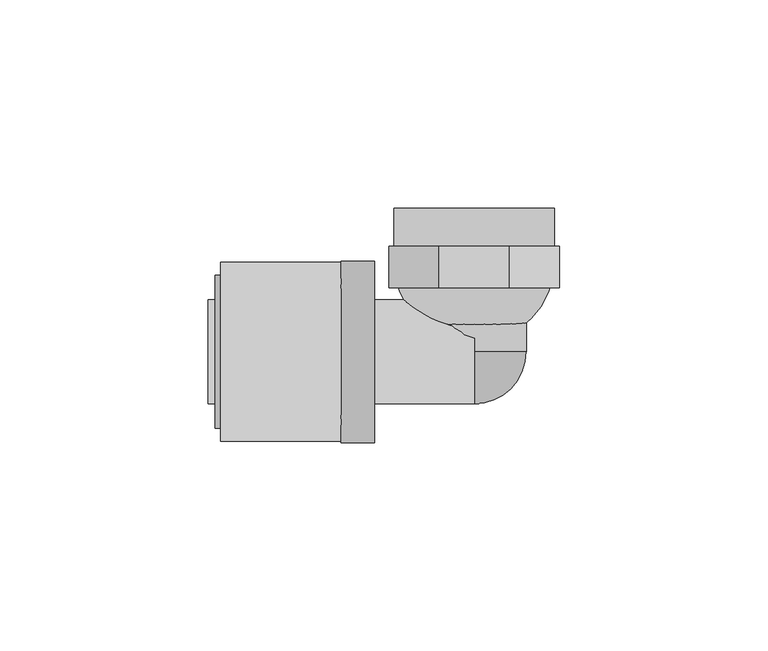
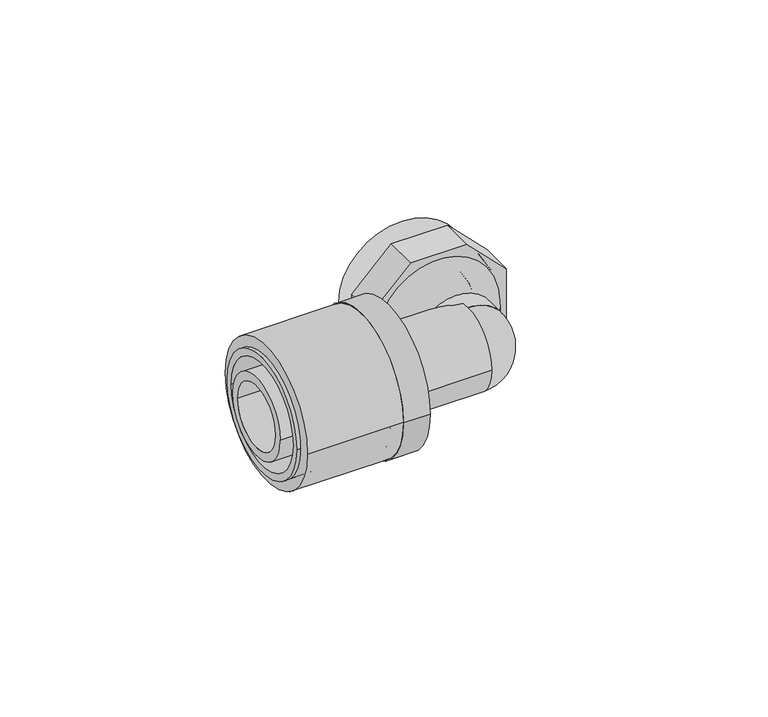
"""IFC4 building model written with IfcOpenShell, lengths in millimetres: pipe fitting geometry, FASTLOC_Elbow with female thread LX : FSL A internal CZ."""

from ifc_helpers import new_model, si_unit, point, frame, origin, origin_2d, place, context, project, spatial, polyline, circle_curve, ellipse_curve, trimmed, segment, composite_curve, outline, extrude, source, transform, mapped, element, save
from ifc_brep_helpers import plane_surface, cylinder_surface, revolved_surface, advanced_brep


def pipe_fitting_c3764643(model_context):
    return source(origin(), model_context, "Body", "SolidModel", [
        extrude(outline(composite_curve([segment(trimmed(circle_curve(origin_2d(), 21.5), [point((21.5, 0.0))], [point((-21.5, 0.0))], False, "CARTESIAN"), True, "CONTINUOUS"), segment(trimmed(circle_curve(origin_2d(), 21.5), [point((-21.5, 0.0))], [point((21.5, 0.0))], False, "CARTESIAN"), True, "CONTINUOUS")], self_intersect=False), holes=[composite_curve([segment(trimmed(circle_curve(origin_2d(), 16.85), [point((16.85, 0.0))], [point((-16.85, 0.0))], True, "CARTESIAN"), True, "CONTINUOUS"), segment(trimmed(circle_curve(origin_2d(), 16.85), [point((-16.85, 0.0))], [point((16.85, 0.0))], True, "CARTESIAN"), True, "CONTINUOUS")], self_intersect=False)]), frame((-61.0, 0.0, 0.0), z_axis=(1.0, 0.0, 0.0), x_axis=(0.0, 1.0, 0.0)), (0.0, 0.0, 1.0), 29.0),
        advanced_brep(
        [(-32.0, -21.8, 0.0), (-32.0, 21.8, 0.0), (-24.0, 21.8, 0.0), (-24.0, -21.8, 0.0), (-62.3, -18.35, 0.0), (-62.3, 18.35, 0.0), (-32.0, 18.35, 0.0), (-32.0, -18.35, 0.0), (-24.0, -16.2, 0.0), (-24.0, 16.2, 0.0), (-62.3, 16.2, 0.0), (-62.3, -16.2, 0.0)],
        [
            (0, 1, circle_curve(frame((-32.0, 0.0, 0.0), z_axis=(1.0, 0.0, 0.0), x_axis=(0.0, 1.0, 0.0)), 21.8)),
            (1, 2),
            (2, 3, circle_curve(frame((-24.0, 0.0, 0.0), z_axis=(-1.0, 0.0, 0.0), x_axis=(0.0, 1.0, 0.0)), 21.8)),
            (3, 0),
            (4, 5, circle_curve(frame((-62.3, 0.0, 0.0), z_axis=(1.0, 0.0, 0.0), x_axis=(0.0, 1.0, 0.0)), 18.35)),
            (5, 6),
            (6, 7, circle_curve(frame((-32.0, 0.0, 0.0), z_axis=(-1.0, 0.0, 0.0), x_axis=(0.0, 1.0, 0.0)), 18.35)),
            (7, 4),
            (8, 9, circle_curve(frame((-24.0, 0.0, 0.0), z_axis=(1.0, 0.0, 0.0), x_axis=(0.0, 1.0, 0.0)), 16.2)),
            (9, 10),
            (10, 11, circle_curve(frame((-62.3, 0.0, 0.0), z_axis=(-1.0, 0.0, 0.0), x_axis=(0.0, 1.0, 0.0)), 16.2)),
            (11, 8),
            (1, 0, circle_curve(frame((-32.0, 0.0, 0.0), z_axis=(1.0, 0.0, 0.0), x_axis=(0.0, -1.0, 0.0)), 21.8)),
            (3, 2, circle_curve(frame((-24.0, 0.0, 0.0), z_axis=(-1.0, 0.0, 0.0), x_axis=(0.0, -1.0, 0.0)), 21.8)),
            (6, 7, circle_curve(frame((-32.0, 0.0, 0.0), z_axis=(1.0, 0.0, 0.0), x_axis=(0.0, -1.0, 0.0)), 18.35)),
            (5, 4, circle_curve(frame((-62.3, 0.0, 0.0), z_axis=(1.0, 0.0, 0.0), x_axis=(0.0, -1.0, 0.0)), 18.35)),
            (10, 11, circle_curve(frame((-62.3, 0.0, 0.0), z_axis=(1.0, 0.0, 0.0), x_axis=(0.0, -1.0, 0.0)), 16.2)),
            (9, 8, circle_curve(frame((-24.0, 0.0, 0.0), z_axis=(1.0, 0.0, 0.0), x_axis=(0.0, -1.0, 0.0)), 16.2)),
        ],
        [
            cylinder_surface(frame((-24.0, 0.0, 0.0), z_axis=(-1.0, 0.0, 0.0), x_axis=(0.0, 1.0, 0.0)), 21.8),
            cylinder_surface(frame((-24.0, 0.0, 0.0), z_axis=(-1.0, 0.0, 0.0), x_axis=(0.0, 1.0, 0.0)), 18.35),
            revolved_surface(polyline([(-62.3, 16.2, 0.0), (-24.0, 16.2, 0.0)]), (-24.0, 0.0, 0.0), (-1.0, 0.0, 0.0)),
            cylinder_surface(frame((-24.0, 0.0, 0.0), z_axis=(-1.0, 0.0, 0.0), x_axis=(0.0, -1.0, 0.0)), 21.8),
            plane_surface(frame((-32.0, 0.0, 0.0), z_axis=(-1.0, 0.0, 0.0), x_axis=(0.0, -1.0, 0.0))),
            cylinder_surface(frame((-24.0, 0.0, 0.0), z_axis=(-1.0, 0.0, 0.0), x_axis=(0.0, -1.0, 0.0)), 18.35),
            plane_surface(frame((-62.3, 0.0, 0.0), z_axis=(-1.0, 0.0, 0.0), x_axis=(0.0, -1.0, 0.0))),
            revolved_surface(polyline([(-62.3, -16.2, 0.0), (-24.0, -16.2, 0.0)]), (-24.0, 0.0, 0.0), (-1.0, 0.0, 0.0)),
            plane_surface(frame((-24.0, 0.0, 0.0), z_axis=(1.0, 0.0, 0.0), x_axis=(0.0, -1.0, 0.0))),
        ],
        [
            (0, [[1, 2, 3, 4]]),
            (1, [[5, 6, 7, 8]]),
            (2, [[9, 10, 11, 12]]),
            (3, [[13, -4, 14, -2]]),
            (4, [[-13, -1], [15, -7]]),
            (5, [[16, -8, -15, -6]]),
            (6, [[-16, -5], [17, -11]]),
            (7, [[18, -12, -17, -10]]),
            (8, [[-14, -3], [-18, -9]]),
        ],
    ),
        advanced_brep(
        [(0.5, 2.2564946, 0.0), (-0.5, 2.2564946, 0.0), (-19.25, 21.5, 0.0), (19.25, 21.5, 0.0), (0.5, 9.010004, 0.0), (-0.5, 9.010004, 0.0), (12.5, 21.5, 0.0), (-12.5, 21.5, 0.0), (12.5, 34.5, 0.0), (-12.5, 34.5, 0.0), (-19.25, 34.5, 0.0), (19.25, 34.5, 0.0)],
        [
            (0, 1, circle_curve(frame((0.0, 2.2564946, 0.0), z_axis=(0.0, 1.0, 0.0), x_axis=(-1.0, 0.0, 0.0)), 0.5)),
            (1, 2, circle_curve(frame((0.0, 21.5, 0.0), z_axis=(0.0, 0.0, -1.0), x_axis=(0.0, 1.0, 0.0)), 19.25)),
            (2, 3, circle_curve(frame((0.0, 21.5, 0.0), z_axis=(0.0, -1.0, 0.0), x_axis=(-1.0, 0.0, 0.0)), 19.25)),
            (3, 0, circle_curve(frame((0.0, 21.5, 0.0), z_axis=(0.0, 0.0, -1.0), x_axis=(0.0, 1.0, 0.0)), 19.25)),
            (4, 5, circle_curve(frame((0.0, 9.010004, 0.0), z_axis=(0.0, 1.0, 0.0), x_axis=(-1.0, 0.0, 0.0)), 0.5)),
            (5, 1),
            (0, 4),
            (6, 7, circle_curve(frame((0.0, 21.5, 0.0), z_axis=(0.0, 1.0, 0.0), x_axis=(-1.0, 0.0, 0.0)), 12.5)),
            (7, 5, circle_curve(frame((0.0, 21.5, 0.0), z_axis=(0.0, 0.0, 1.0), x_axis=(0.0, 1.0, 0.0)), 12.5)),
            (4, 6, circle_curve(frame((0.0, 21.5, 0.0), z_axis=(0.0, 0.0, 1.0), x_axis=(0.0, 1.0, 0.0)), 12.5)),
            (8, 9, circle_curve(frame((0.0, 34.5, 0.0), z_axis=(0.0, 1.0, 0.0), x_axis=(-1.0, 0.0, 0.0)), 12.5)),
            (9, 7),
            (6, 8),
            (2, 10),
            (10, 11, circle_curve(frame((0.0, 34.5, 0.0), z_axis=(0.0, -1.0, 0.0), x_axis=(-1.0, 0.0, 0.0)), 19.25)),
            (11, 3),
            (1, 0, circle_curve(frame((0.0, 2.2564946, 0.0), z_axis=(0.0, 1.0, 0.0), x_axis=(1.0, 0.0, 0.0)), 0.5)),
            (3, 2, circle_curve(frame((0.0, 21.5, 0.0), z_axis=(0.0, -1.0, 0.0), x_axis=(1.0, 0.0, 0.0)), 19.25)),
            (5, 4, circle_curve(frame((0.0, 9.010004, 0.0), z_axis=(0.0, 1.0, 0.0), x_axis=(1.0, 0.0, 0.0)), 0.5)),
            (7, 6, circle_curve(frame((0.0, 21.5, 0.0), z_axis=(0.0, 1.0, 0.0), x_axis=(1.0, 0.0, 0.0)), 12.5)),
            (9, 8, circle_curve(frame((0.0, 34.5, 0.0), z_axis=(0.0, 1.0, 0.0), x_axis=(1.0, 0.0, 0.0)), 12.5)),
            (10, 11, circle_curve(frame((0.0, 34.5, 0.0), z_axis=(0.0, 1.0, 0.0), x_axis=(1.0, 0.0, 0.0)), 19.25)),
        ],
        [
            revolved_surface(trimmed(ellipse_curve(frame((0.0, 21.5, 0.0), z_axis=(0.0, 0.0, 1.0), x_axis=(0.0, 1.0, 0.0)), 19.25, 19.25), [point((-19.25, 21.5, 0.0))], [point((-0.5, 2.2564946, 0.0))], True, "CARTESIAN"), (0.0, 15.4, 0.0), (0.0, -1.0, 0.0)),
            revolved_surface(polyline([(-0.5, 2.2564946, 0.0), (-0.5, 9.010004, 0.0)]), (0.0, 15.4, 0.0), (0.0, -1.0, 0.0)),
            revolved_surface(trimmed(ellipse_curve(frame((0.0, 21.5, 0.0), z_axis=(0.0, 0.0, -1.0), x_axis=(0.0, 1.0, 0.0)), 12.5, 12.5), [point((-0.5, 9.010004, 0.0))], [point((-12.5, 21.5, 0.0))], True, "CARTESIAN"), (0.0, 15.4, 0.0), (0.0, -1.0, 0.0)),
            revolved_surface(polyline([(-12.5, 21.5, 0.0), (-12.5, 34.5, 0.0)]), (0.0, 15.4, 0.0), (0.0, -1.0, 0.0)),
            cylinder_surface(frame((0.0, 15.4, 0.0), z_axis=(0.0, -1.0, 0.0), x_axis=(-1.0, 0.0, 0.0)), 19.25),
            revolved_surface(trimmed(ellipse_curve(frame((0.0, 21.5, 0.0), z_axis=(0.0, 0.0, -1.0), x_axis=(0.0, 1.0, 0.0)), 19.25, 19.25), [point((19.25, 21.5, 0.0))], [point((0.5, 2.2564946, 0.0))], True, "CARTESIAN"), (0.0, 15.4, 0.0), (0.0, -1.0, 0.0)),
            revolved_surface(polyline([(0.5, 2.2564946, 0.0), (0.5, 9.010004, 0.0)]), (0.0, 15.4, 0.0), (0.0, -1.0, 0.0)),
            revolved_surface(trimmed(ellipse_curve(frame((0.0, 21.5, 0.0), z_axis=(0.0, 0.0, 1.0), x_axis=(0.0, 1.0, 0.0)), 12.5, 12.5), [point((0.5, 9.010004, 0.0))], [point((12.5, 21.5, 0.0))], True, "CARTESIAN"), (0.0, 15.4, 0.0), (0.0, -1.0, 0.0)),
            revolved_surface(polyline([(12.5, 21.5, 0.0), (12.5, 34.5, 0.0)]), (0.0, 15.4, 0.0), (0.0, -1.0, 0.0)),
            plane_surface(frame((0.0, 34.5, 0.0), z_axis=(0.0, 1.0, 0.0), x_axis=(1.0, 0.0, 0.0))),
            cylinder_surface(frame((0.0, 15.4, 0.0), z_axis=(0.0, -1.0, 0.0), x_axis=(1.0, 0.0, 0.0)), 19.25),
        ],
        [
            (0, [[1, 2, 3, 4]]),
            (1, [[5, 6, -1, 7]]),
            (2, [[8, 9, -5, 10]]),
            (3, [[11, 12, -8, 13]]),
            (4, [[-3, 14, 15, 16]]),
            (5, [[17, -4, 18, -2]]),
            (6, [[19, -7, -17, -6]]),
            (7, [[20, -10, -19, -9]]),
            (8, [[21, -13, -20, -12]]),
            (9, [[22, -15], [-21, -11]]),
            (10, [[-18, -16, -22, -14]]),
        ],
    ),
        advanced_brep(
        [(-32.0, 12.5, 0.0), (-32.0, -12.5, 0.0), (-64.0, -12.5, 0.0), (-64.0, 12.5, 0.0), (-29.0, 14.1, 0.0), (-29.0, -14.1, 0.0), (-32.0, -14.1, 0.0), (-32.0, 14.1, 0.0), (0.0, 12.5, 0.0), (0.0, -12.5, 0.0), (-29.0, -12.5, 0.0), (-29.0, 12.5, 0.0), (-64.0, 9.85, 0.0), (-64.0, -9.85, 0.0), (0.0, -9.85, 0.0), (0.0, 9.85, 0.0)],
        [
            (0, 1, circle_curve(frame((-32.0, 0.0, 0.0), z_axis=(-1.0, 0.0, 0.0), x_axis=(0.0, -1.0, 0.0)), 12.5)),
            (1, 2),
            (2, 3, circle_curve(frame((-64.0, 0.0, 0.0), z_axis=(1.0, 0.0, 0.0), x_axis=(0.0, -1.0, 0.0)), 12.5)),
            (3, 0),
            (4, 5, circle_curve(frame((-29.0, 0.0, 0.0), z_axis=(-1.0, 0.0, 0.0), x_axis=(0.0, -1.0, 0.0)), 14.1)),
            (5, 6),
            (6, 7, circle_curve(frame((-32.0, 0.0, 0.0), z_axis=(1.0, 0.0, 0.0), x_axis=(0.0, -1.0, 0.0)), 14.1)),
            (7, 4),
            (8, 9, circle_curve(frame((0.0, 0.0, 0.0), z_axis=(-1.0, 0.0, 0.0), x_axis=(0.0, -1.0, 0.0)), 12.5)),
            (9, 10),
            (10, 11, circle_curve(frame((-29.0, 0.0, 0.0), z_axis=(1.0, 0.0, 0.0), x_axis=(0.0, -1.0, 0.0)), 12.5)),
            (11, 8),
            (12, 13, circle_curve(frame((-64.0, 0.0, 0.0), z_axis=(-1.0, 0.0, 0.0), x_axis=(0.0, -1.0, 0.0)), 9.85)),
            (13, 14),
            (14, 15, circle_curve(frame((0.0, 0.0, 0.0), z_axis=(1.0, 0.0, 0.0), x_axis=(0.0, -1.0, 0.0)), 9.85)),
            (15, 12),
            (2, 3, circle_curve(frame((-64.0, 0.0, 0.0), z_axis=(-1.0, 0.0, 0.0), x_axis=(0.0, 1.0, 0.0)), 12.5)),
            (12, 13, circle_curve(frame((-64.0, 0.0, 0.0), z_axis=(1.0, 0.0, 0.0), x_axis=(0.0, 1.0, 0.0)), 9.85)),
            (1, 0, circle_curve(frame((-32.0, 0.0, 0.0), z_axis=(-1.0, 0.0, 0.0), x_axis=(0.0, 1.0, 0.0)), 12.5)),
            (6, 7, circle_curve(frame((-32.0, 0.0, 0.0), z_axis=(-1.0, 0.0, 0.0), x_axis=(0.0, 1.0, 0.0)), 14.1)),
            (5, 4, circle_curve(frame((-29.0, 0.0, 0.0), z_axis=(-1.0, 0.0, 0.0), x_axis=(0.0, 1.0, 0.0)), 14.1)),
            (10, 11, circle_curve(frame((-29.0, 0.0, 0.0), z_axis=(-1.0, 0.0, 0.0), x_axis=(0.0, 1.0, 0.0)), 12.5)),
            (9, 8, circle_curve(frame((0.0, 0.0, 0.0), z_axis=(-1.0, 0.0, 0.0), x_axis=(0.0, 1.0, 0.0)), 12.5)),
            (14, 15, circle_curve(frame((0.0, 0.0, 0.0), z_axis=(-1.0, 0.0, 0.0), x_axis=(0.0, 1.0, 0.0)), 9.85)),
        ],
        [
            cylinder_surface(frame((0.0, 0.0, 0.0), z_axis=(1.0, 0.0, 0.0), x_axis=(0.0, -1.0, 0.0)), 12.5),
            cylinder_surface(frame((0.0, 0.0, 0.0), z_axis=(1.0, 0.0, 0.0), x_axis=(0.0, -1.0, 0.0)), 14.1),
            revolved_surface(polyline([(0.0, -9.85, 0.0), (-64.0, -9.85, 0.0)]), (0.0, 0.0, 0.0), (1.0, 0.0, 0.0)),
            plane_surface(frame((-64.0, 0.0, 0.0), z_axis=(-1.0, 0.0, 0.0), x_axis=(0.0, 1.0, 0.0))),
            cylinder_surface(frame((0.0, 0.0, 0.0), z_axis=(1.0, 0.0, 0.0), x_axis=(0.0, 1.0, 0.0)), 12.5),
            plane_surface(frame((-32.0, 0.0, 0.0), z_axis=(-1.0, 0.0, 0.0), x_axis=(0.0, 1.0, 0.0))),
            cylinder_surface(frame((0.0, 0.0, 0.0), z_axis=(1.0, 0.0, 0.0), x_axis=(0.0, 1.0, 0.0)), 14.1),
            plane_surface(frame((-29.0, 0.0, 0.0), z_axis=(1.0, 0.0, 0.0), x_axis=(0.0, 1.0, 0.0))),
            plane_surface(frame((0.0, 0.0, 0.0), z_axis=(1.0, 0.0, 0.0), x_axis=(0.0, 1.0, 0.0))),
            revolved_surface(polyline([(0.0, 9.85, 0.0), (-64.0, 9.85, 0.0)]), (0.0, 0.0, 0.0), (1.0, 0.0, 0.0)),
        ],
        [
            (0, [[1, 2, 3, 4]]),
            (1, [[5, 6, 7, 8]]),
            (0, [[9, 10, 11, 12]]),
            (2, [[13, 14, 15, 16]]),
            (3, [[17, -3], [18, -13]]),
            (4, [[19, -4, -17, -2]]),
            (5, [[20, -7], [-19, -1]]),
            (6, [[21, -8, -20, -6]]),
            (7, [[-21, -5], [22, -11]]),
            (4, [[23, -12, -22, -10]]),
            (8, [[-23, -9], [24, -15]]),
            (9, [[-18, -16, -24, -14]]),
        ],
    ),
        advanced_brep(
        [(0.0, 0.0, 12.5), (0.0, 0.0, 6.25), (0.0, -6.25, 0.0), (0.0, -12.5, 0.0), (0.0, 0.0, -12.5), (0.0, 0.0, -6.25)],
        [
            (0, 1),
            (1, 2, circle_curve(frame((0.0, 0.0, 0.0), z_axis=(1.0, 0.0, 0.0), x_axis=(0.0, 0.0, 1.0)), 6.25)),
            (2, 3),
            (3, 0, circle_curve(frame((0.0, 0.0, 0.0), z_axis=(-1.0, 0.0, 0.0), x_axis=(0.0, 0.0, 1.0)), 12.5)),
            (4, 3, circle_curve(frame((0.0, 0.0, 0.0), z_axis=(-1.0, 0.0, 0.0), x_axis=(0.0, 0.0, -1.0)), 12.5)),
            (2, 5, circle_curve(frame((0.0, 0.0, 0.0), z_axis=(1.0, 0.0, 0.0), x_axis=(0.0, 0.0, -1.0)), 6.25)),
            (5, 4),
            (5, 1, circle_curve(frame((0.0, 0.0, 0.0), z_axis=(0.0, -1.0, 0.0), x_axis=(0.0, 0.0, 1.0)), 6.25)),
            (0, 4, circle_curve(frame((0.0, 0.0, 0.0), z_axis=(0.0, 1.0, 0.0), x_axis=(0.0, 0.0, 1.0)), 12.5)),
        ],
        [
            plane_surface(frame((0.0, 0.0, 0.0), z_axis=(-1.0, 0.0, 0.0), x_axis=(0.0, 0.0, 1.0))),
            plane_surface(frame((0.0, 0.0, 0.0), z_axis=(-1.0, 0.0, 0.0), x_axis=(0.0, 0.0, -1.0))),
            plane_surface(frame((0.0, 0.0, 0.0), z_axis=(0.0, 1.0, 0.0), x_axis=(0.0, 0.0, 1.0))),
            revolved_surface(trimmed(ellipse_curve(frame((0.0, 0.0, 0.0), z_axis=(1.0, 0.0, 0.0), x_axis=(0.0, 0.0, 1.0)), 6.25, 6.25), [point((0.0, 0.0, 6.25))], [point((0.0, -6.25, 0.0))], True, "CARTESIAN"), (0.0, 0.0, 0.0), (0.0, 1.0, 0.0)),
            revolved_surface(trimmed(ellipse_curve(frame((0.0, 0.0, 0.0), z_axis=(-1.0, 0.0, 0.0), x_axis=(0.0, 0.0, 1.0)), 12.5, 12.5), [point((0.0, -12.5, 0.0))], [point((0.0, 0.0, 12.5))], True, "CARTESIAN"), (0.0, 0.0, 0.0), (0.0, 1.0, 0.0)),
        ],
        [
            (0, [[1, 2, 3, 4]]),
            (1, [[5, -3, 6, 7]]),
            (2, [[8, -1, 9, -7]]),
            (3, [[-2, -8, -6]]),
            (4, [[-9, -4, -5]]),
        ],
    ),
        extrude(outline(polyline([(-20.5, 8.491378), (-8.491378, 20.5), (8.491378, 20.5), (20.5, 8.491378), (20.5, -8.491378), (8.491378, -20.5), (-8.491378, -20.5), (-20.5, -8.491378), (-20.5, 8.491378)])), frame((0.0, 15.4, 0.0), z_axis=(0.0, 1.0, 0.0), x_axis=(0.0, 0.0, 1.0)), (0.0, 0.0, 1.0), 10.0),
        extrude(outline(composite_curve([segment(trimmed(circle_curve(origin_2d(), 12.5), [point((0.0, -12.5))], [point((0.0, 12.5))], False, "CARTESIAN"), True, "CONTINUOUS"), segment(trimmed(circle_curve(origin_2d(), 12.5), [point((0.0, 12.5))], [point((0.0, -12.5))], False, "CARTESIAN"), True, "CONTINUOUS")], self_intersect=False), holes=[composite_curve([segment(trimmed(circle_curve(origin_2d(), 9.85), [point((0.0, -9.85))], [point((0.0, 9.85))], True, "CARTESIAN"), True, "CONTINUOUS"), segment(trimmed(circle_curve(origin_2d(), 9.85), [point((0.0, 9.85))], [point((0.0, -9.85))], True, "CARTESIAN"), True, "CONTINUOUS")], self_intersect=False)]), frame((0.0, 0.0, 0.0), z_axis=(0.0, 1.0, 0.0), x_axis=(0.0, 0.0, 1.0)), (0.0, 0.0, 1.0), 15.4),
    ])


if __name__ == "__main__":
    model = new_model("IFC4")
    model_context = context("Model", 3, world=origin())
    ifc_project = project(units=[si_unit("LENGTHUNIT", "METRE", prefix="MILLI")], contexts=[model_context])
    site = spatial("IfcSite", under=ifc_project)
    building = spatial("IfcBuilding", under=site)
    placement = place(None, origin())
    pipe_fitting_shape = pipe_fitting_c3764643(model_context)
    element("IfcPipeFitting", 1, ObjectType="FASTLOC_Elbow with female thread LX : FSL A internal CZ", at=placement, inside=building, context=model_context, shape_type="MappedRepresentation", body=[
        mapped(pipe_fitting_shape, transform((0.0, 0.0, 0.0), x_axis=(1.0, 0.0, 0.0), y_axis=(0.0, 1.0, 0.0), z_axis=(0.0, 0.0, 1.0))),
    ])
    save(model, "model.ifc")
